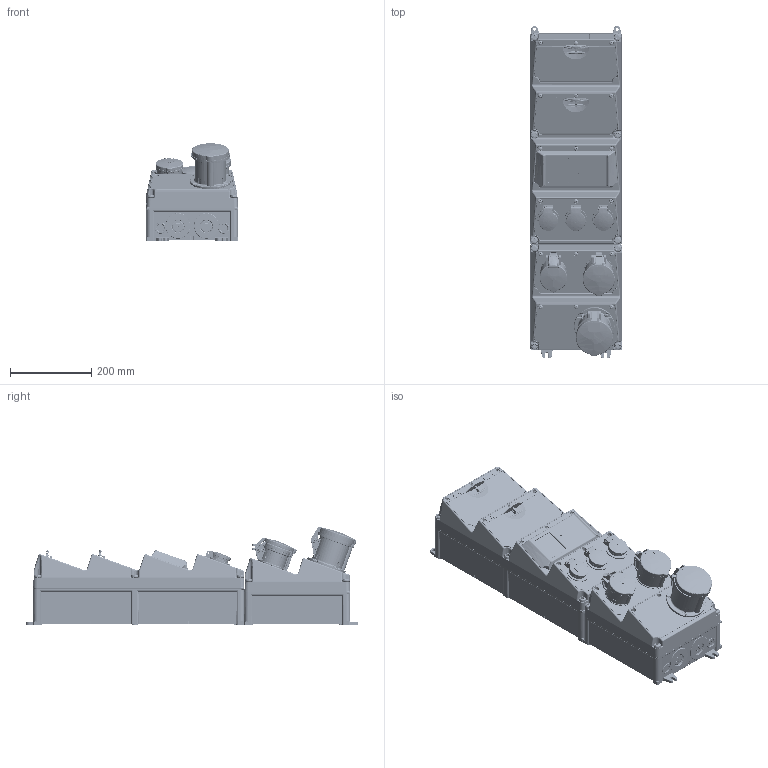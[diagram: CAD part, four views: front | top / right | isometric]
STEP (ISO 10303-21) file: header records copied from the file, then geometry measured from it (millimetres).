
FILE_DESCRIPTION((''),'2;1');
FILE_NAME('2514505-0_ASM_1_ASM','2026-03-20T07:59:46',('kremer'),('MENNEKES'),'CREO PARAMETRIC BY PTC INC, 2024153','CREO PARAMETRIC BY PTC INC, 2024153','');
FILE_SCHEMA(('AUTOMOTIVE_DESIGN { 1 0 10303 214 1 1 1 1 }'));
Products named in the file (19): 4-4_SW_O_FEHGRAU_1; 2-4_SW_O_FEHGRAU_1; REG_0_5TE_UA-AA_1; FI_4POL_4TE_1_1; FI_4POL_4TE_1_2; FI_4POL_4TE_1_3; FI_4POL_4TE_1_4; FI_4POL_4TE_1_ASM; LS_3POL_3TE_1; LS_1POL_1TE_1; MP_IOT_1FENSTER_1; ZAEHLER_4TE_WAAGERECHT_1; MP_LEER_FEHGRAU_1; MP_FEN10_44_OBEN_SCHWARZ_1; AMAXX_CEE_63_5_44_ROT_1; AMAXX_CEE_32_5_44_ROT_1; AMAXX_CEE_16_5_44_ROT_1; AMAXX_SCHUKO_44_BLAU_1; 2514505-0_ASM_1_ASM
Assembly tree (31 placements, depth 3):
  2514505-0_ASM_1_ASM
    4-4_SW_O_FEHGRAU_1
    2-4_SW_O_FEHGRAU_1
    REG_0_5TE_UA-AA_1  x6
    FI_4POL_4TE_1_ASM
      FI_4POL_4TE_1_1
      FI_4POL_4TE_1_2
      FI_4POL_4TE_1_3
      FI_4POL_4TE_1_4
    LS_3POL_3TE_1  x2
    LS_1POL_1TE_1  x3
    MP_IOT_1FENSTER_1
    ZAEHLER_4TE_WAAGERECHT_1
    MP_LEER_FEHGRAU_1  x3
    MP_FEN10_44_OBEN_SCHWARZ_1  x2
    AMAXX_CEE_63_5_44_ROT_1
    AMAXX_CEE_32_5_44_ROT_1
    AMAXX_CEE_16_5_44_ROT_1
    AMAXX_SCHUKO_44_BLAU_1  x3
Bounding box: 225.58 x 818.66 x 241.97 mm (x, y, z)
Volume: 20203192.6 mm3; surface area: 2174980.5 mm2
Topology: 30 solids, 30 shells, 22934 faces, 63096 edges, 40299 vertices
Faces by surface type: plane 11334, cylinder 5925, bspline 2090, torus 1860, cone 905, sphere 512, extrusion 308
Entity records: 950522 total; most frequent: CARTESIAN_POINT 252731, ORIENTED_EDGE 96856, DIRECTION 84832, PRESENTATION_STYLE_ASSIGNMENT 62762, STYLED_ITEM 48579, CURVE_STYLE 48562, EDGE_CURVE 48428, VERTEX_POINT 30918
